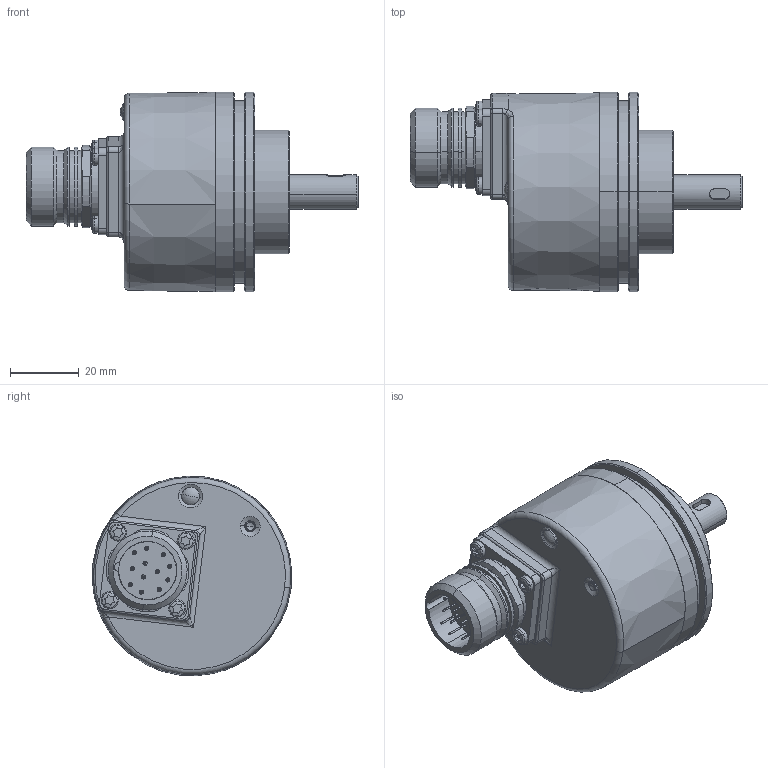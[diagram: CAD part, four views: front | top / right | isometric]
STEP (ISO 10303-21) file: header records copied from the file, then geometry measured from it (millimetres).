
FILE_DESCRIPTION (( 'STEP AP214' ), '1' );
FILE_NAME ('5853SIL.1AX3.XXXX.STEP', '2010-07-20T08:00:39', ( 'admin' ), ( 'Fritz Kübler GmbH' ), 'SwSTEP 2.0', 'SolidWorks 2009', '' );
FILE_SCHEMA (( 'AUTOMOTIVE_DESIGN' ));
Length unit declared in the file: millimetre
Products named in the file (1): 5853SIL.1AX3.XXXX
Bounding box: 96.5 x 58 x 58 mm (x, y, z)
Surface area: 22041.7 mm2 (no closed solid volume)
Topology: 0 solids, 31 shells, 339 faces, 887 edges, 563 vertices
Faces by surface type: cylinder 140, plane 87, cone 44, sphere 36, torus 26, bspline 6
Entity records: 15172 total; most frequent: CARTESIAN_POINT 2891, DIRECTION 2029, ORIENTED_EDGE 1556, EDGE_CURVE 861, AXIS2_PLACEMENT_3D 860, VERTEX_POINT 563, CIRCLE 526, EDGE_LOOP 391
